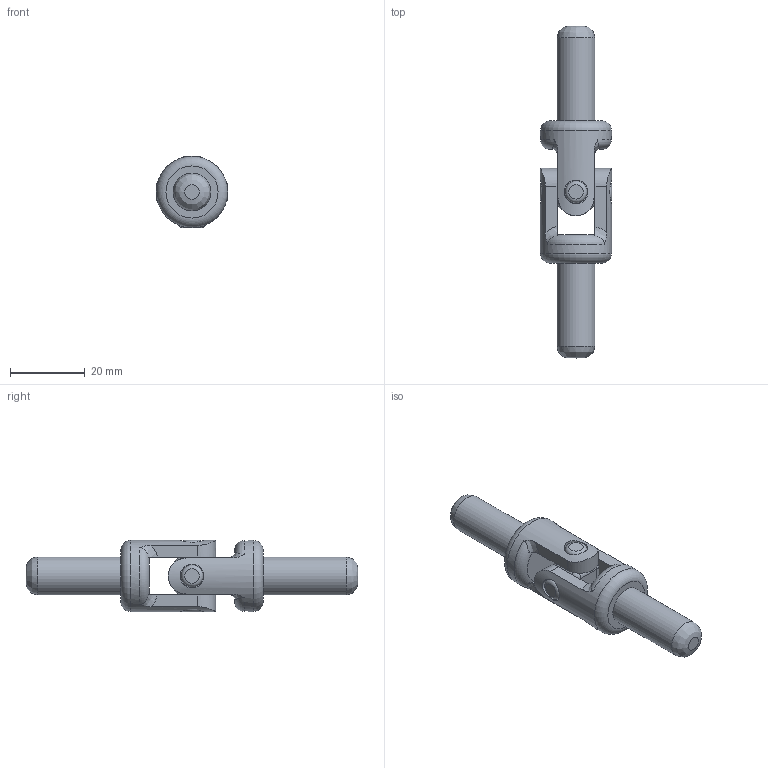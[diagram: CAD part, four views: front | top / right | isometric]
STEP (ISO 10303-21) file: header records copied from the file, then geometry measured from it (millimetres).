
FILE_DESCRIPTION((''),'2;1');
FILE_NAME('C:\Users\Bad Brad\Desktop\Bradley''s PROJECT FOLDER\Universal Joint Assembly.stp','2010-10-08T00:12:43',('Bad Brad'),(''),'Autodesk Inventor 2010','Autodesk Inventor 2010','');
FILE_SCHEMA(('AUTOMOTIVE_DESIGN { 1 0 10303 214 1 1 1 1 }'));
Length unit declared in the file: inch
Products named in the file (3): Universal Joint Assembly; Universal Coupler; Universal Joint
Assembly tree (3 placements, depth 2):
  Universal Joint Assembly
    Universal Coupler
    Universal Joint  x2
Bounding box: 19.05 x 88.9 x 19.05 mm (x, y, z)
Volume: 11546.7 mm3; surface area: 5955.6 mm2
Topology: 3 solids, 3 shells, 87 faces, 226 edges, 140 vertices
Faces by surface type: plane 31, cylinder 28, torus 10, bspline 10, sphere 8
Full cylindrical faces by diameter (mm): 5.842 x3, 6.35 x4, 7.112 x1, 10.16 x2, 19.05 x2
Entity records: 2130 total; most frequent: CARTESIAN_POINT 714, DIRECTION 276, ORIENTED_EDGE 256, EDGE_CURVE 128, AXIS2_PLACEMENT_3D 117, VERTEX_POINT 86, EDGE_LOOP 86, FACE_OUTER_BOUND 64
